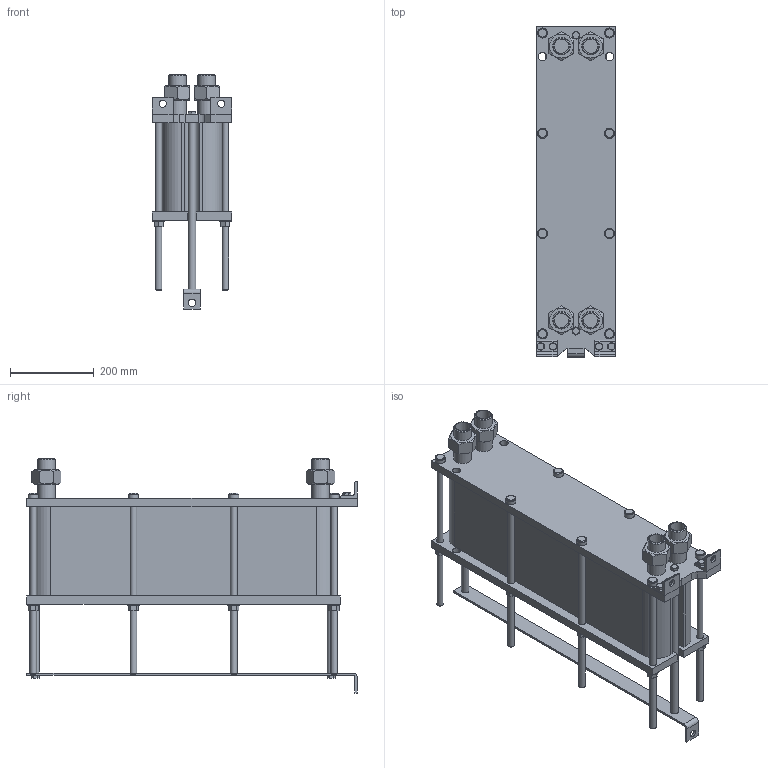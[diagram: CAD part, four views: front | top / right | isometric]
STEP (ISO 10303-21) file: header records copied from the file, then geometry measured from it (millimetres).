
FILE_DESCRIPTION(/* description */ (''),/* implementation_level */ '2;1');
FILE_NAME(/* name */ 'C:\Users\zhuro\Desktop\ENCO\TO\ЭН-008\ЭН-0,5-008-69-1.stp',/* time_stamp */ '2022-06-06T10:51:23+03:00',/* author */ ('zhuro'),/* organization */ (''),/* preprocessor_version */ 'ST-DEVELOPER v18.1',/* originating_system */ 'Autodesk Inventor 2022',/* authorisation */ '');
FILE_SCHEMA (('AUTOMOTIVE_DESIGN { 1 0 10303 214 3 1 1 }'));
Length unit declared in the file: millimetre
Products named in the file (1): ЭН-0,5-008-69-1
Bounding box: 190 x 790 x 560.2 mm (x, y, z)
Volume: 28644431.7 mm3; surface area: 1759301.1 mm2
Topology: 40 solids, 40 shells, 428 faces, 924 edges, 606 vertices
Faces by surface type: plane 273, cylinder 109, cone 40, torus 6
Full cylindrical faces by diameter (mm): 12 x6, 14 x2, 16 x20, 17 x8, 18 x19, 20 x5, 24 x8, 28 x8, 34.3 x8, 42.3 x8
Entity records: 15843 total; most frequent: CARTESIAN_POINT 5991, DIRECTION 1984, ORIENTED_EDGE 1848, EDGE_CURVE 924, AXIS2_PLACEMENT_3D 715, VERTEX_POINT 606, LINE 554, VECTOR 554
